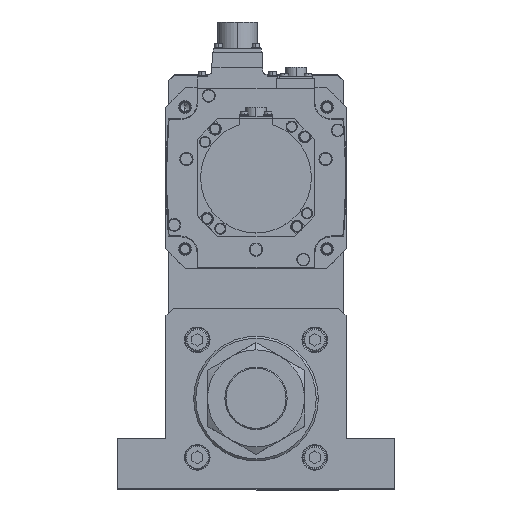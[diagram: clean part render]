
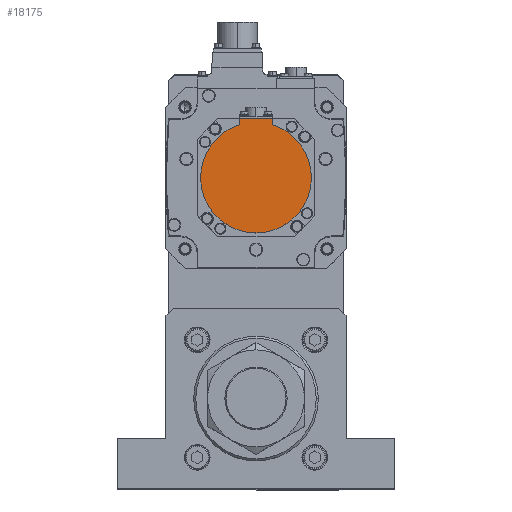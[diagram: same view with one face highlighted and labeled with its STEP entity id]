
A CAD part, top view. The second image highlights one B-rep face of the part: STEP entity #18175.
In plain terms, the highlighted planar face has unit normal (0, 0, 1) as drawn and (0, 0, -1) by its records, which use the part's own axes.
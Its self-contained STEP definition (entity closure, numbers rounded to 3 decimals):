
#1310 = CARTESIAN_POINT ( 'NONE',  ( -12., -38.158, -181. ) ) ;
#3396 = FACE_OUTER_BOUND ( 'NONE', #31326, .T. ) ;
#3544 = AXIS2_PLACEMENT_3D ( 'NONE', #29211, #17463, #20407 ) ;
#4809 = CARTESIAN_POINT ( 'NONE',  ( 12., -38.158, -181. ) ) ;
#5338 = CARTESIAN_POINT ( 'NONE',  ( 0., -1.25, -181. ) ) ;
#5421 = VERTEX_POINT ( 'NONE', #6645 ) ;
#6403 = CARTESIAN_POINT ( 'NONE',  ( 12., -1.25, -181. ) ) ;
#6645 = CARTESIAN_POINT ( 'NONE',  ( -12., -42.5, -181. ) ) ;
#7135 = DIRECTION ( 'NONE',  ( 1., 0., 0. ) ) ;
#7401 = AXIS2_PLACEMENT_3D ( 'NONE', #23910, #8972, #14877 ) ;
#7517 = CARTESIAN_POINT ( 'NONE',  ( 0., 0., -181. ) ) ;
#7643 = ORIENTED_EDGE ( 'NONE', *, *, #14836, .T. ) ;
#8721 = ORIENTED_EDGE ( 'NONE', *, *, #29392, .F. ) ;
#8972 = DIRECTION ( 'NONE',  ( 0., 0., 1. ) ) ;
#10112 = DIRECTION ( 'NONE',  ( 0., 0., 1. ) ) ;
#10885 = LINE ( 'NONE', #11549, #18240 ) ;
#11263 = DIRECTION ( 'NONE',  ( 0., 0., 1. ) ) ;
#11549 = CARTESIAN_POINT ( 'NONE',  ( -12., -40.329, -181. ) ) ;
#11982 = LINE ( 'NONE', #6403, #27680 ) ;
#12196 = EDGE_CURVE ( 'NONE', #27550, #12759, #35401, .T. ) ;
#12353 = AXIS2_PLACEMENT_3D ( 'NONE', #5338, #11263, #37819 ) ;
#12759 = VERTEX_POINT ( 'NONE', #14453 ) ;
#13572 = CARTESIAN_POINT ( 'NONE',  ( 40., 0., -181. ) ) ;
#14142 = ORIENTED_EDGE ( 'NONE', *, *, #36743, .F. ) ;
#14453 = CARTESIAN_POINT ( 'NONE',  ( -40., 0., -181. ) ) ;
#14836 = EDGE_CURVE ( 'NONE', #28047, #5421, #19758, .T. ) ;
#14877 = DIRECTION ( 'NONE',  ( 1., 0., 0. ) ) ;
#17100 = ORIENTED_EDGE ( 'NONE', *, *, #27005, .F. ) ;
#17135 = VERTEX_POINT ( 'NONE', #1310 ) ;
#17463 = DIRECTION ( 'NONE',  ( 0., 0., 1. ) ) ;
#17481 = VECTOR ( 'NONE', #20450, 1000. ) ;
#18175 = ADVANCED_FACE ( 'NONE', ( #3396 ), #31578, .F. ) ;
#18240 = VECTOR ( 'NONE', #25988, 1000. ) ;
#19758 = LINE ( 'NONE', #29261, #17481 ) ;
#20407 = DIRECTION ( 'NONE',  ( 1., 0., 0. ) ) ;
#20450 = DIRECTION ( 'NONE',  ( -1., 0., 0. ) ) ;
#21558 = ORIENTED_EDGE ( 'NONE', *, *, #12196, .F. ) ;
#23910 = CARTESIAN_POINT ( 'NONE',  ( 0., 0., -181. ) ) ;
#25319 = ORIENTED_EDGE ( 'NONE', *, *, #28874, .T. ) ;
#25988 = DIRECTION ( 'NONE',  ( 0., 1., 0. ) ) ;
#27005 = EDGE_CURVE ( 'NONE', #28047, #34887, #11982, .T. ) ;
#27550 = VERTEX_POINT ( 'NONE', #13572 ) ;
#27680 = VECTOR ( 'NONE', #30270, 1000. ) ;
#28035 = AXIS2_PLACEMENT_3D ( 'NONE', #7517, #10112, #7135 ) ;
#28047 = VERTEX_POINT ( 'NONE', #30861 ) ;
#28874 = EDGE_CURVE ( 'NONE', #5421, #17135, #10885, .T. ) ;
#29211 = CARTESIAN_POINT ( 'NONE',  ( 0., 0., -181. ) ) ;
#29261 = CARTESIAN_POINT ( 'NONE',  ( 0., -42.5, -181. ) ) ;
#29392 = EDGE_CURVE ( 'NONE', #12759, #17135, #33059, .T. ) ;
#30270 = DIRECTION ( 'NONE',  ( 0., 1., 0. ) ) ;
#30861 = CARTESIAN_POINT ( 'NONE',  ( 12., -42.5, -181. ) ) ;
#31326 = EDGE_LOOP ( 'NONE', ( #25319, #8721, #21558, #14142, #17100, #7643 ) ) ;
#31578 = PLANE ( 'NONE',  #12353 ) ;
#32754 = CIRCLE ( 'NONE', #28035, 40. ) ;
#33059 = CIRCLE ( 'NONE', #3544, 40. ) ;
#34887 = VERTEX_POINT ( 'NONE', #4809 ) ;
#35401 = CIRCLE ( 'NONE', #7401, 40. ) ;
#36743 = EDGE_CURVE ( 'NONE', #34887, #27550, #32754, .T. ) ;
#37819 = DIRECTION ( 'NONE',  ( 1., 0., 0. ) ) ;
